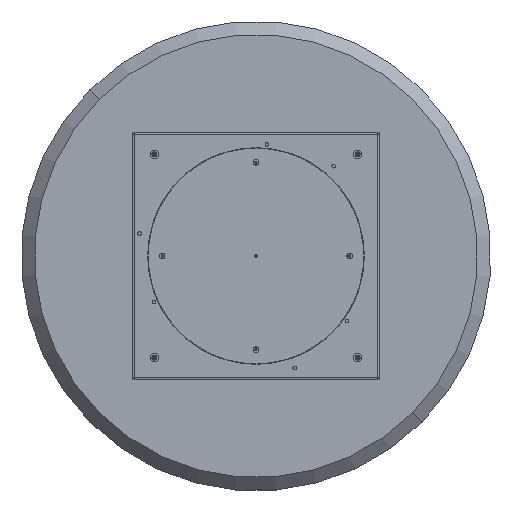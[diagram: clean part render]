
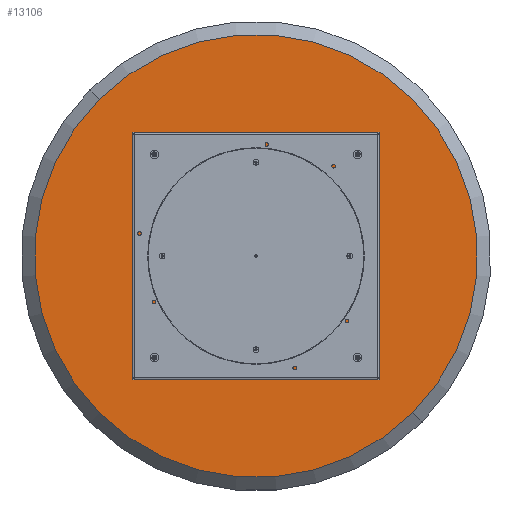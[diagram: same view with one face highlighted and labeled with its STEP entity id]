
A CAD part, front view. The second image highlights one B-rep face of the part: STEP entity #13106.
In plain terms, the highlighted planar face has unit normal (0, -1, 0).
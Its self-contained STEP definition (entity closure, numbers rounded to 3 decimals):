
#10 = ORIENTED_EDGE ( 'NONE', *, *, #1784, .F. ) ;
#14 = EDGE_LOOP ( 'NONE', ( #1358, #14037 ) ) ;
#331 = CARTESIAN_POINT ( 'NONE',  ( 0., 0., -397.5 ) ) ;
#459 = DIRECTION ( 'NONE',  ( 0., 0., -1. ) ) ;
#475 = EDGE_CURVE ( 'NONE', #15657, #11877, #1985, .T. ) ;
#521 = ORIENTED_EDGE ( 'NONE', *, *, #13231, .F. ) ;
#534 = CARTESIAN_POINT ( 'NONE',  ( 397.5, 0., 0. ) ) ;
#605 = ORIENTED_EDGE ( 'NONE', *, *, #4814, .F. ) ;
#818 = CARTESIAN_POINT ( 'NONE',  ( 0., 0., -397.5 ) ) ;
#895 = DIRECTION ( 'NONE',  ( 0., 0., -1. ) ) ;
#1062 = CIRCLE ( 'NONE', #12207, 3.4 ) ;
#1122 = FACE_OUTER_BOUND ( 'NONE', #5150, .T. ) ;
#1274 = EDGE_LOOP ( 'NONE', ( #10, #605 ) ) ;
#1358 = ORIENTED_EDGE ( 'NONE', *, *, #15277, .F. ) ;
#1590 = DIRECTION ( 'NONE',  ( 0., 0., -1. ) ) ;
#1686 = EDGE_CURVE ( 'NONE', #12496, #15051, #7392, .T. ) ;
#1784 = EDGE_CURVE ( 'NONE', #5380, #1967, #11191, .T. ) ;
#1967 = VERTEX_POINT ( 'NONE', #5476 ) ;
#1985 = CIRCLE ( 'NONE', #3001, 3.4 ) ;
#2310 = AXIS2_PLACEMENT_3D ( 'NONE', #9604, #7232, #4618 ) ;
#2927 = CARTESIAN_POINT ( 'NONE',  ( 0., 0., -613. ) ) ;
#2934 = DIRECTION ( 'NONE',  ( 0., -1., 0. ) ) ;
#3001 = AXIS2_PLACEMENT_3D ( 'NONE', #12157, #11121, #13424 ) ;
#3068 = DIRECTION ( 'NONE',  ( 0., -1., 0. ) ) ;
#3290 = DIRECTION ( 'NONE',  ( 0., -1., 0. ) ) ;
#3554 = ORIENTED_EDGE ( 'NONE', *, *, #1686, .F. ) ;
#3661 = CARTESIAN_POINT ( 'NONE',  ( 397.5, 0., -3.4 ) ) ;
#3973 = CARTESIAN_POINT ( 'NONE',  ( 0., 0., 397.5 ) ) ;
#3980 = CARTESIAN_POINT ( 'NONE',  ( -397.5, 0., 3.4 ) ) ;
#4097 = DIRECTION ( 'NONE',  ( 0., 0., -1. ) ) ;
#4408 = CARTESIAN_POINT ( 'NONE',  ( 0., 0., -400.9 ) ) ;
#4410 = FACE_BOUND ( 'NONE', #1274, .T. ) ;
#4437 = CIRCLE ( 'NONE', #10767, 3.4 ) ;
#4618 = DIRECTION ( 'NONE',  ( 0., 0., -1. ) ) ;
#4814 = EDGE_CURVE ( 'NONE', #1967, #5380, #4437, .T. ) ;
#5150 = EDGE_LOOP ( 'NONE', ( #14581, #12275 ) ) ;
#5380 = VERTEX_POINT ( 'NONE', #4408 ) ;
#5476 = CARTESIAN_POINT ( 'NONE',  ( 0., 0., -394.1 ) ) ;
#5604 = FACE_BOUND ( 'NONE', #9910, .T. ) ;
#5666 = CARTESIAN_POINT ( 'NONE',  ( 0., 0., 613. ) ) ;
#5908 = AXIS2_PLACEMENT_3D ( 'NONE', #534, #11536, #4097 ) ;
#6021 = CARTESIAN_POINT ( 'NONE',  ( 0., 0., 400.9 ) ) ;
#6184 = EDGE_CURVE ( 'NONE', #15051, #12496, #7015, .T. ) ;
#6226 = DIRECTION ( 'NONE',  ( 0., -1., 0. ) ) ;
#6517 = CARTESIAN_POINT ( 'NONE',  ( -397.5, 0., 0. ) ) ;
#6537 = DIRECTION ( 'NONE',  ( 0., 0., -1. ) ) ;
#6801 = FACE_BOUND ( 'NONE', #12881, .T. ) ;
#7015 = CIRCLE ( 'NONE', #15109, 3.4 ) ;
#7232 = DIRECTION ( 'NONE',  ( 0., -1., 0. ) ) ;
#7311 = DIRECTION ( 'NONE',  ( 0., 0., -1. ) ) ;
#7392 = CIRCLE ( 'NONE', #2310, 3.4 ) ;
#7628 = CIRCLE ( 'NONE', #7889, 3.4 ) ;
#7889 = AXIS2_PLACEMENT_3D ( 'NONE', #6517, #12434, #8799 ) ;
#8246 = VERTEX_POINT ( 'NONE', #2927 ) ;
#8515 = DIRECTION ( 'NONE',  ( 0., -1., 0. ) ) ;
#8608 = EDGE_CURVE ( 'NONE', #10385, #8246, #12628, .T. ) ;
#8636 = ORIENTED_EDGE ( 'NONE', *, *, #12460, .F. ) ;
#8655 = DIRECTION ( 'NONE',  ( 0., 0., -1. ) ) ;
#8799 = DIRECTION ( 'NONE',  ( 0., 0., -1. ) ) ;
#8824 = VERTEX_POINT ( 'NONE', #3980 ) ;
#8911 = AXIS2_PLACEMENT_3D ( 'NONE', #9172, #3290, #12809 ) ;
#8927 = AXIS2_PLACEMENT_3D ( 'NONE', #331, #2934, #8655 ) ;
#9038 = CARTESIAN_POINT ( 'NONE',  ( 0., 0., 394.1 ) ) ;
#9172 = CARTESIAN_POINT ( 'NONE',  ( 0., 0., 0. ) ) ;
#9604 = CARTESIAN_POINT ( 'NONE',  ( 0., 0., 397.5 ) ) ;
#9910 = EDGE_LOOP ( 'NONE', ( #8636, #521 ) ) ;
#10076 = CARTESIAN_POINT ( 'NONE',  ( 0., 0., 0. ) ) ;
#10092 = AXIS2_PLACEMENT_3D ( 'NONE', #13930, #3068, #459 ) ;
#10338 = ORIENTED_EDGE ( 'NONE', *, *, #6184, .F. ) ;
#10385 = VERTEX_POINT ( 'NONE', #5666 ) ;
#10511 = PLANE ( 'NONE',  #8911 ) ;
#10767 = AXIS2_PLACEMENT_3D ( 'NONE', #818, #15628, #895 ) ;
#11121 = DIRECTION ( 'NONE',  ( 0., -1., 0. ) ) ;
#11191 = CIRCLE ( 'NONE', #8927, 3.4 ) ;
#11536 = DIRECTION ( 'NONE',  ( 0., -1., 0. ) ) ;
#11877 = VERTEX_POINT ( 'NONE', #3661 ) ;
#12157 = CARTESIAN_POINT ( 'NONE',  ( 397.5, 0., 0. ) ) ;
#12207 = AXIS2_PLACEMENT_3D ( 'NONE', #13495, #8515, #7311 ) ;
#12275 = ORIENTED_EDGE ( 'NONE', *, *, #13353, .T. ) ;
#12434 = DIRECTION ( 'NONE',  ( 0., -1., 0. ) ) ;
#12460 = EDGE_CURVE ( 'NONE', #14862, #8824, #7628, .T. ) ;
#12496 = VERTEX_POINT ( 'NONE', #9038 ) ;
#12628 = CIRCLE ( 'NONE', #10092, 613. ) ;
#12729 = CIRCLE ( 'NONE', #5908, 3.4 ) ;
#12809 = DIRECTION ( 'NONE',  ( 0., 0., -1. ) ) ;
#12881 = EDGE_LOOP ( 'NONE', ( #3554, #10338 ) ) ;
#13106 = ADVANCED_FACE ( 'NONE', ( #1122, #4410, #5604, #15192, #6801 ), #10511, .T. ) ;
#13231 = EDGE_CURVE ( 'NONE', #8824, #14862, #1062, .T. ) ;
#13353 = EDGE_CURVE ( 'NONE', #8246, #10385, #13989, .T. ) ;
#13424 = DIRECTION ( 'NONE',  ( 0., 0., -1. ) ) ;
#13495 = CARTESIAN_POINT ( 'NONE',  ( -397.5, 0., 0. ) ) ;
#13708 = CARTESIAN_POINT ( 'NONE',  ( -397.5, 0., -3.4 ) ) ;
#13930 = CARTESIAN_POINT ( 'NONE',  ( 0., 0., 0. ) ) ;
#13989 = CIRCLE ( 'NONE', #14745, 613. ) ;
#14037 = ORIENTED_EDGE ( 'NONE', *, *, #475, .F. ) ;
#14581 = ORIENTED_EDGE ( 'NONE', *, *, #8608, .T. ) ;
#14623 = CARTESIAN_POINT ( 'NONE',  ( 397.5, 0., 3.4 ) ) ;
#14745 = AXIS2_PLACEMENT_3D ( 'NONE', #10076, #14916, #1590 ) ;
#14862 = VERTEX_POINT ( 'NONE', #13708 ) ;
#14916 = DIRECTION ( 'NONE',  ( 0., -1., 0. ) ) ;
#15051 = VERTEX_POINT ( 'NONE', #6021 ) ;
#15109 = AXIS2_PLACEMENT_3D ( 'NONE', #3973, #6226, #6537 ) ;
#15192 = FACE_BOUND ( 'NONE', #14, .T. ) ;
#15277 = EDGE_CURVE ( 'NONE', #11877, #15657, #12729, .T. ) ;
#15628 = DIRECTION ( 'NONE',  ( 0., -1., 0. ) ) ;
#15657 = VERTEX_POINT ( 'NONE', #14623 ) ;
